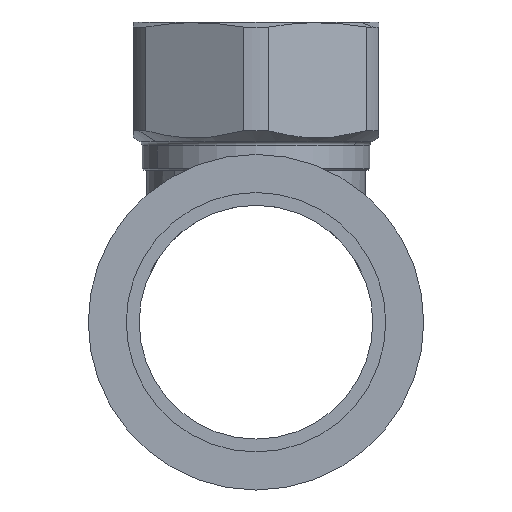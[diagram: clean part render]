
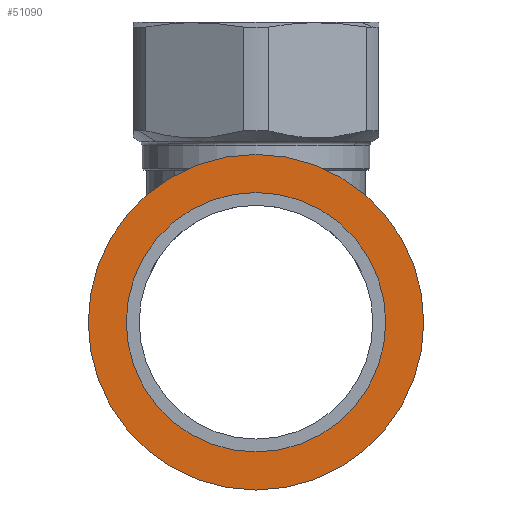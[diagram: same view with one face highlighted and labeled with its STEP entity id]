
A CAD part, left-side view. The second image highlights one B-rep face of the part: STEP entity #51090.
In plain terms, the highlighted planar face has unit normal (-1, 0, 0) as drawn and (-0.866, -0.5, 0) by its records, which use the part's own axes.
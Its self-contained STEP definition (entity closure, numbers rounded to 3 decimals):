
#2930=CARTESIAN_POINT('',(-70.867,-40.915,-84.467));
#2940=VERTEX_POINT('',#2930);
#3120=CARTESIAN_POINT('',(-70.867,-40.915,-28.467));
#3130=VERTEX_POINT('',#3120);
#3160=CARTESIAN_POINT('',(-70.867,-40.915,-56.467));
#3170=DIRECTION('',(0.866,0.5,
0.));
#3180=DIRECTION('',(0.,0.,1.));
#3190=AXIS2_PLACEMENT_3D('',#3160,#3170,#3180);
#3200=CIRCLE('',#3190,28.);
#3210=EDGE_CURVE('',#2940,#3130,#3200,.T.);
#50710=CARTESIAN_POINT('',(-70.867,-40.915,-78.117))
;
#50720=VERTEX_POINT('',#50710);
#50750=CARTESIAN_POINT('',(-70.867,-40.915,-56.467))
;
#50760=DIRECTION('',(0.866,0.5,
0.));
#50770=DIRECTION('',(0.,0.,1.));
#50780=AXIS2_PLACEMENT_3D('',#50750,#50760,#50770);
#50790=CIRCLE('',#50780,21.65);
#50800=CARTESIAN_POINT('',(-70.867,-40.915,-34.817))
;
#50810=VERTEX_POINT('',#50800);
#50820=EDGE_CURVE('',#50720,#50810,#50790,.T.);
#50940=CARTESIAN_POINT('',(-70.867,-40.915,-30.042))
;
#50950=DIRECTION('',(-0.866,-0.5,
0.));
#50960=DIRECTION('',(0.,0.,1.));
#50970=AXIS2_PLACEMENT_3D('',#50940,#50950,#50960);
#50980=PLANE('',#50970);
#50990=EDGE_CURVE('',#50810,#50720,#50790,.T.);
#51000=ORIENTED_EDGE('',*,*,#50990,.T.);
#51010=ORIENTED_EDGE('',*,*,#50820,.T.);
#51020=EDGE_LOOP('',(#51010,#51000));
#51030=FACE_BOUND('',#51020,.T.);
#51040=EDGE_CURVE('',#3130,#2940,#3200,.T.);
#51050=ORIENTED_EDGE('',*,*,#51040,.F.);
#51060=ORIENTED_EDGE('',*,*,#3210,.F.);
#51070=EDGE_LOOP('',(#51060,#51050));
#51080=FACE_OUTER_BOUND('',#51070,.T.);
#51090=ADVANCED_FACE('',(#51030,#51080),#50980,.T.);
